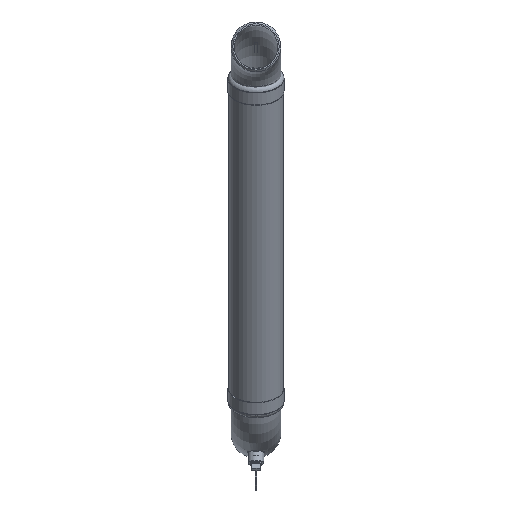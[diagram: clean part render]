
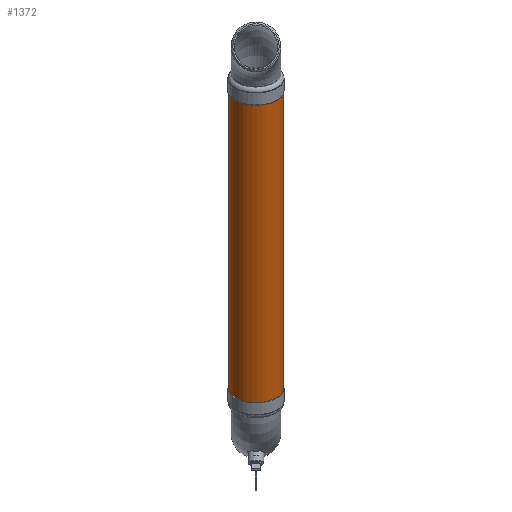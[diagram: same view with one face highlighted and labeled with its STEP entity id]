
A CAD part, front view. The second image highlights one B-rep face of the part: STEP entity #1372.
In plain terms, the highlighted cylindrical face has radius 48.92 mm (diameter 97.841 mm), a full revolution.
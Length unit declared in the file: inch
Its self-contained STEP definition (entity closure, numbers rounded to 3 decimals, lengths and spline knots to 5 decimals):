
#248=CIRCLE('',#1556,1.926);
#249=CIRCLE('',#1557,1.926);
#332=FACE_BOUND('',#587,.T.);
#429=FACE_OUTER_BOUND('',#586,.T.);
#586=EDGE_LOOP('',(#1114));
#587=EDGE_LOOP('',(#1115));
#719=VERTEX_POINT('',#2420);
#720=VERTEX_POINT('',#2422);
#856=EDGE_CURVE('',#719,#719,#248,.T.);
#857=EDGE_CURVE('',#720,#720,#249,.T.);
#1114=ORIENTED_EDGE('',*,*,#856,.T.);
#1115=ORIENTED_EDGE('',*,*,#857,.F.);
#1170=CYLINDRICAL_SURFACE('',#1555,1.926);
#1372=ADVANCED_FACE('',(#429,#332),#1170,.T.);
#1555=AXIS2_PLACEMENT_3D('',#2419,#1932,#1933);
#1556=AXIS2_PLACEMENT_3D('',#2421,#1934,#1935);
#1557=AXIS2_PLACEMENT_3D('',#2423,#1936,#1937);
#1932=DIRECTION('center_axis',(0.,-0.5,
0.866));
#1933=DIRECTION('ref_axis',(0.366,-0.806,-0.465));
#1934=DIRECTION('center_axis',(0.,0.5,
-0.866));
#1935=DIRECTION('ref_axis',(0.366,-0.806,-0.465));
#1936=DIRECTION('center_axis',(0.,0.5,
-0.866));
#1937=DIRECTION('ref_axis',(0.366,-0.806,-0.465));
#2419=CARTESIAN_POINT('Origin',(0.00611,-3.89711,-24.875));
#2420=CARTESIAN_POINT('',(-0.69894,-15.40743,-1.35393));
#2421=CARTESIAN_POINT('Origin',(0.00611,-16.95961,-2.25009));
#2422=CARTESIAN_POINT('',(-0.69894,-2.34493,-23.97884));
#2423=CARTESIAN_POINT('Origin',(0.00611,-3.89711,-24.875));
